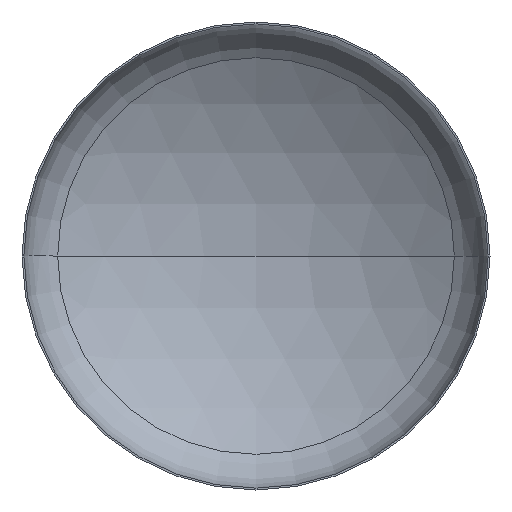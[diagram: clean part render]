
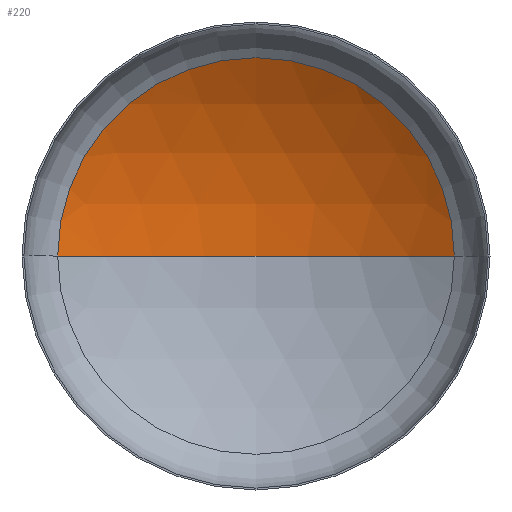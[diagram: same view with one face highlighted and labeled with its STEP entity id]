
A CAD part, front view. The second image highlights one B-rep face of the part: STEP entity #220.
In plain terms, the highlighted spherical face has radius 4400 mm.
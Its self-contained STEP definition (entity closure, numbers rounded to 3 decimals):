
#2 = CARTESIAN_POINT ( 'NONE',  ( 0., 786.729, 0. ) ) ;
#4 = DIRECTION ( 'NONE',  ( 1., 0., 0. ) ) ;
#8 = AXIS2_PLACEMENT_3D ( 'NONE', #2, #39, #395 ) ;
#11 = DIRECTION ( 'NONE',  ( 0., 0., 1. ) ) ;
#17 = DIRECTION ( 'NONE',  ( 0., 0., -1. ) ) ;
#37 = CARTESIAN_POINT ( 'NONE',  ( 0., -2945.35, 0. ) ) ;
#39 = DIRECTION ( 'NONE',  ( 0., -1., 0. ) ) ;
#41 = EDGE_LOOP ( 'NONE', ( #136, #48, #221 ) ) ;
#43 = CARTESIAN_POINT ( 'NONE',  ( -2330.577, 786.729, 0. ) ) ;
#47 = CARTESIAN_POINT ( 'NONE',  ( 0., -2945.35, 0. ) ) ;
#48 = ORIENTED_EDGE ( 'NONE', *, *, #398, .T. ) ;
#81 = DIRECTION ( 'NONE',  ( -1., 0., 0. ) ) ;
#85 = CIRCLE ( 'NONE', #372, 4400. ) ;
#86 = VERTEX_POINT ( 'NONE', #247 ) ;
#107 = VERTEX_POINT ( 'NONE', #245 ) ;
#123 = VERTEX_POINT ( 'NONE', #43 ) ;
#136 = ORIENTED_EDGE ( 'NONE', *, *, #403, .F. ) ;
#193 = CIRCLE ( 'NONE', #212, 4400. ) ;
#212 = AXIS2_PLACEMENT_3D ( 'NONE', #37, #11, #4 ) ;
#220 = ADVANCED_FACE ( 'NONE', ( #271 ), #390, .F. ) ;
#221 = ORIENTED_EDGE ( 'NONE', *, *, #391, .T. ) ;
#244 = AXIS2_PLACEMENT_3D ( 'NONE', #367, #320, #341 ) ;
#245 = CARTESIAN_POINT ( 'NONE',  ( 0., 1454.65, 0. ) ) ;
#247 = CARTESIAN_POINT ( 'NONE',  ( 2330.577, 786.729, 0. ) ) ;
#271 = FACE_OUTER_BOUND ( 'NONE', #41, .T. ) ;
#320 = DIRECTION ( 'NONE',  ( 0., 0., -1. ) ) ;
#332 = CIRCLE ( 'NONE', #8, 2330.577 ) ;
#341 = DIRECTION ( 'NONE',  ( -1., 0., 0. ) ) ;
#367 = CARTESIAN_POINT ( 'NONE',  ( 0., -2945.35, 0. ) ) ;
#372 = AXIS2_PLACEMENT_3D ( 'NONE', #47, #17, #81 ) ;
#390 = SPHERICAL_SURFACE ( 'NONE', #244, 4400. ) ;
#391 = EDGE_CURVE ( 'NONE', #86, #123, #332, .T. ) ;
#395 = DIRECTION ( 'NONE',  ( 1., 0., 0. ) ) ;
#398 = EDGE_CURVE ( 'NONE', #107, #86, #85, .T. ) ;
#403 = EDGE_CURVE ( 'NONE', #107, #123, #193, .T. ) ;
